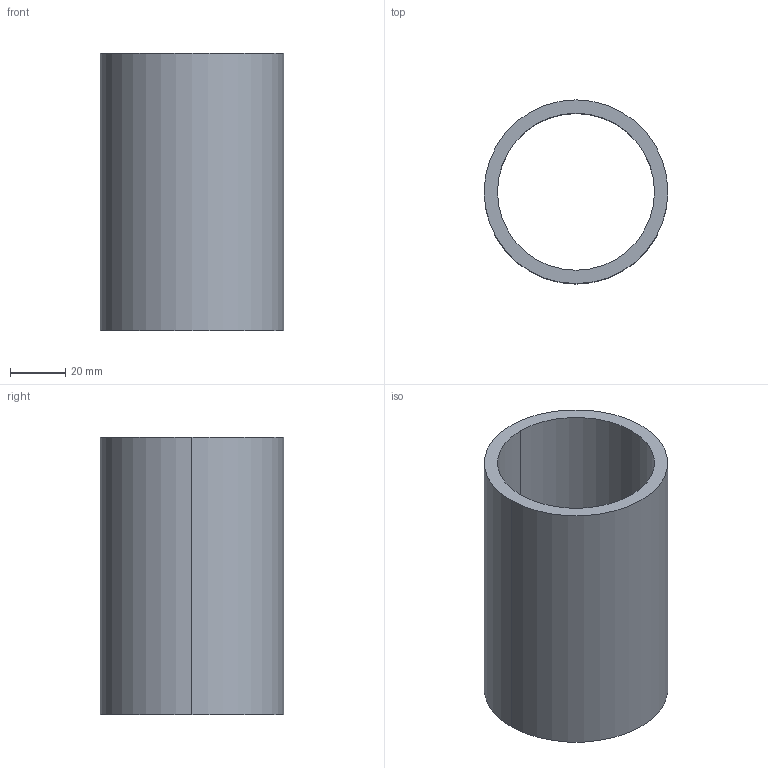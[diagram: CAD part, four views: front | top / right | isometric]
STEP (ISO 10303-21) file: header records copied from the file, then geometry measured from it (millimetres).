
FILE_DESCRIPTION (( 'STEP AP203' ), '1' );
FILE_NAME ('19-0408-29_outokumpu.step', '2015-08-11T09:44:21', ( '' ), ( '' ), 'SwSTEP 2.0', 'SolidWorks 2008', '' );
FILE_SCHEMA (( 'CONFIG_CONTROL_DESIGN' ));
Length unit declared in the file: millimetre
Products named in the file (1): 19-0408-29_outokumpu
Bounding box: 66.3 x 66.3 x 100 mm (x, y, z)
Volume: 86163.1 mm3; surface area: 40475.6 mm2
Topology: 1 solids, 1 shells, 12 faces, 26 edges, 16 vertices
Faces by surface type: cylinder 6, cone 4, plane 2
Entity records: 415 total; most frequent: DIRECTION 68, CARTESIAN_POINT 55, ORIENTED_EDGE 52, AXIS2_PLACEMENT_3D 29, EDGE_CURVE 26, CIRCLE 16, VERTEX_POINT 16, EDGE_LOOP 14
